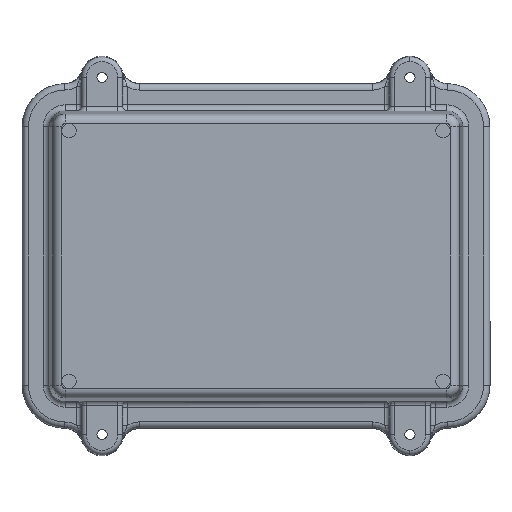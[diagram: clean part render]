
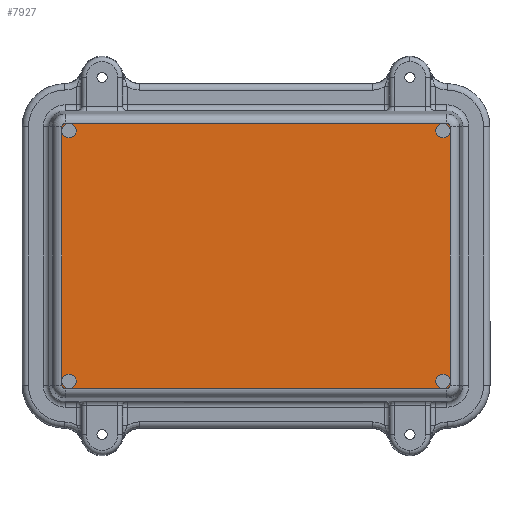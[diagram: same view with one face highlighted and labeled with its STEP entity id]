
A CAD part, front view. The second image highlights one B-rep face of the part: STEP entity #7927.
In plain terms, the highlighted planar face has unit normal (0, -1, 0).
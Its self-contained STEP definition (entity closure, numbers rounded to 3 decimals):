
#15 = FACE_OUTER_BOUND ( 'NONE', #20070, .T. ) ;
#27 = EDGE_CURVE ( 'NONE', #15214, #14828, #15602, .T. ) ;
#88 = CARTESIAN_POINT ( 'NONE',  ( 60.7, -39.8, -38.35 ) ) ;
#189 = AXIS2_PLACEMENT_3D ( 'NONE', #15067, #13405, #9733 ) ;
#399 = CIRCLE ( 'NONE', #21406, 2.35 ) ;
#540 = CARTESIAN_POINT ( 'NONE',  ( 62., -39.8, 43.063 ) ) ;
#605 = FACE_BOUND ( 'NONE', #1218, .T. ) ;
#646 = DIRECTION ( 'NONE',  ( 0., -1., 0. ) ) ;
#805 = CIRCLE ( 'NONE', #5787, 2.35 ) ;
#846 = CIRCLE ( 'NONE', #15861, 2.35 ) ;
#849 = VERTEX_POINT ( 'NONE', #19536 ) ;
#1120 = ORIENTED_EDGE ( 'NONE', *, *, #27, .T. ) ;
#1170 = FACE_BOUND ( 'NONE', #11552, .T. ) ;
#1218 = EDGE_LOOP ( 'NONE', ( #2453, #15654 ) ) ;
#1384 = VERTEX_POINT ( 'NONE', #22030 ) ;
#1394 = DIRECTION ( 'NONE',  ( 0., -1., 0. ) ) ;
#1497 = DIRECTION ( 'NONE',  ( 0., -1., 0. ) ) ;
#1668 = DIRECTION ( 'NONE',  ( 0., -1., 0. ) ) ;
#1745 = CIRCLE ( 'NONE', #189, 1.063 ) ;
#2144 = DIRECTION ( 'NONE',  ( 0., 0., -1. ) ) ;
#2301 = EDGE_CURVE ( 'NONE', #11062, #19643, #5932, .T. ) ;
#2390 = ORIENTED_EDGE ( 'NONE', *, *, #10307, .F. ) ;
#2453 = ORIENTED_EDGE ( 'NONE', *, *, #8015, .F. ) ;
#2763 = AXIS2_PLACEMENT_3D ( 'NONE', #12406, #1497, #14149 ) ;
#2904 = LINE ( 'NONE', #4687, #19321 ) ;
#2935 = FACE_BOUND ( 'NONE', #21653, .T. ) ;
#3071 = CARTESIAN_POINT ( 'NONE',  ( -60.7, -39.8, -40.7 ) ) ;
#3189 = DIRECTION ( 'NONE',  ( 0., -1., 0. ) ) ;
#3797 = CARTESIAN_POINT ( 'NONE',  ( -63.063, -39.8, -42. ) ) ;
#4373 = ORIENTED_EDGE ( 'NONE', *, *, #19032, .T. ) ;
#4687 = CARTESIAN_POINT ( 'NONE',  ( 62., -39.8, -43.063 ) ) ;
#5056 = VERTEX_POINT ( 'NONE', #19434 ) ;
#5364 = ORIENTED_EDGE ( 'NONE', *, *, #21557, .T. ) ;
#5611 = DIRECTION ( 'NONE',  ( 0., 0., 1. ) ) ;
#5614 = DIRECTION ( 'NONE',  ( 0., 0., 1. ) ) ;
#5787 = AXIS2_PLACEMENT_3D ( 'NONE', #5874, #14930, #2144 ) ;
#5788 = ORIENTED_EDGE ( 'NONE', *, *, #12343, .F. ) ;
#5819 = EDGE_CURVE ( 'NONE', #1384, #20682, #399, .T. ) ;
#5874 = CARTESIAN_POINT ( 'NONE',  ( -60.7, -39.8, 40.7 ) ) ;
#5932 = CIRCLE ( 'NONE', #16559, 1.063 ) ;
#6090 = ORIENTED_EDGE ( 'NONE', *, *, #12167, .T. ) ;
#6392 = CARTESIAN_POINT ( 'NONE',  ( -60.7, -39.8, -43.05 ) ) ;
#6623 = ORIENTED_EDGE ( 'NONE', *, *, #21035, .F. ) ;
#6791 = CARTESIAN_POINT ( 'NONE',  ( -62., -39.8, 43.063 ) ) ;
#6918 = LINE ( 'NONE', #14595, #11395 ) ;
#7163 = ORIENTED_EDGE ( 'NONE', *, *, #2301, .T. ) ;
#7230 = EDGE_CURVE ( 'NONE', #19643, #849, #6918, .T. ) ;
#7306 = CARTESIAN_POINT ( 'NONE',  ( 60.7, -39.8, -43.05 ) ) ;
#7553 = DIRECTION ( 'NONE',  ( 0., -1., 0. ) ) ;
#7842 = DIRECTION ( 'NONE',  ( 0., 0., -1. ) ) ;
#7927 = ADVANCED_FACE ( 'NONE', ( #605, #8527, #1170, #2935, #15 ), #14083, .T. ) ;
#8015 = EDGE_CURVE ( 'NONE', #13835, #5056, #16780, .T. ) ;
#8099 = EDGE_LOOP ( 'NONE', ( #5788, #2390 ) ) ;
#8130 = AXIS2_PLACEMENT_3D ( 'NONE', #21355, #1668, #12640 ) ;
#8199 = DIRECTION ( 'NONE',  ( 0., -1., 0. ) ) ;
#8527 = FACE_BOUND ( 'NONE', #8099, .T. ) ;
#8554 = AXIS2_PLACEMENT_3D ( 'NONE', #23011, #3189, #20915 ) ;
#8882 = ORIENTED_EDGE ( 'NONE', *, *, #11522, .F. ) ;
#9173 = DIRECTION ( 'NONE',  ( 0., 0., -1. ) ) ;
#9304 = CARTESIAN_POINT ( 'NONE',  ( -62., -39.8, 43.063 ) ) ;
#9579 = CIRCLE ( 'NONE', #19409, 2.35 ) ;
#9733 = DIRECTION ( 'NONE',  ( 0., 0., -1. ) ) ;
#9957 = DIRECTION ( 'NONE',  ( 0., 0., -1. ) ) ;
#10108 = VERTEX_POINT ( 'NONE', #88 ) ;
#10307 = EDGE_CURVE ( 'NONE', #10108, #12215, #846, .T. ) ;
#11062 = VERTEX_POINT ( 'NONE', #16705 ) ;
#11166 = DIRECTION ( 'NONE',  ( 0., 0., 1. ) ) ;
#11395 = VECTOR ( 'NONE', #5614, 1000. ) ;
#11522 = EDGE_CURVE ( 'NONE', #12912, #18577, #805, .T. ) ;
#11552 = EDGE_LOOP ( 'NONE', ( #6623, #21912 ) ) ;
#11605 = DIRECTION ( 'NONE',  ( 0., 0., -1. ) ) ;
#11686 = ORIENTED_EDGE ( 'NONE', *, *, #12423, .F. ) ;
#11841 = DIRECTION ( 'NONE',  ( 0., -1., 0. ) ) ;
#12075 = CIRCLE ( 'NONE', #17432, 2.35 ) ;
#12167 = EDGE_CURVE ( 'NONE', #849, #18342, #22012, .T. ) ;
#12215 = VERTEX_POINT ( 'NONE', #7306 ) ;
#12343 = EDGE_CURVE ( 'NONE', #12215, #10108, #21130, .T. ) ;
#12406 = CARTESIAN_POINT ( 'NONE',  ( 62., -39.8, 42. ) ) ;
#12423 = EDGE_CURVE ( 'NONE', #18577, #12912, #12075, .T. ) ;
#12640 = DIRECTION ( 'NONE',  ( 0., 0., -1. ) ) ;
#12647 = EDGE_CURVE ( 'NONE', #5056, #13835, #9579, .T. ) ;
#12912 = VERTEX_POINT ( 'NONE', #14659 ) ;
#13047 = CARTESIAN_POINT ( 'NONE',  ( 60.7, -39.8, 38.35 ) ) ;
#13275 = DIRECTION ( 'NONE',  ( 0., -1., 0. ) ) ;
#13405 = DIRECTION ( 'NONE',  ( 0., -1., 0. ) ) ;
#13787 = VECTOR ( 'NONE', #23102, 1000. ) ;
#13811 = DIRECTION ( 'NONE',  ( 0., 0., 1. ) ) ;
#13835 = VERTEX_POINT ( 'NONE', #6392 ) ;
#14083 = PLANE ( 'NONE',  #8130 ) ;
#14149 = DIRECTION ( 'NONE',  ( 0., 0., -1. ) ) ;
#14152 = CIRCLE ( 'NONE', #8554, 1.063 ) ;
#14179 = CARTESIAN_POINT ( 'NONE',  ( -63.063, -39.8, 42. ) ) ;
#14595 = CARTESIAN_POINT ( 'NONE',  ( 63.063, -39.8, 42. ) ) ;
#14659 = CARTESIAN_POINT ( 'NONE',  ( -60.7, -39.8, 43.05 ) ) ;
#14828 = VERTEX_POINT ( 'NONE', #21879 ) ;
#14930 = DIRECTION ( 'NONE',  ( 0., -1., 0. ) ) ;
#15067 = CARTESIAN_POINT ( 'NONE',  ( -62., -39.8, -42. ) ) ;
#15214 = VERTEX_POINT ( 'NONE', #14179 ) ;
#15335 = DIRECTION ( 'NONE',  ( 1., 0., 0. ) ) ;
#15602 = LINE ( 'NONE', #3797, #20135 ) ;
#15654 = ORIENTED_EDGE ( 'NONE', *, *, #12647, .F. ) ;
#15861 = AXIS2_PLACEMENT_3D ( 'NONE', #20757, #646, #9957 ) ;
#16209 = AXIS2_PLACEMENT_3D ( 'NONE', #18591, #13275, #7842 ) ;
#16496 = VERTEX_POINT ( 'NONE', #9304 ) ;
#16559 = AXIS2_PLACEMENT_3D ( 'NONE', #17058, #18670, #20556 ) ;
#16705 = CARTESIAN_POINT ( 'NONE',  ( 62., -39.8, -43.063 ) ) ;
#16780 = CIRCLE ( 'NONE', #19807, 2.35 ) ;
#17058 = CARTESIAN_POINT ( 'NONE',  ( 62., -39.8, -42. ) ) ;
#17065 = CARTESIAN_POINT ( 'NONE',  ( -60.7, -39.8, 40.7 ) ) ;
#17432 = AXIS2_PLACEMENT_3D ( 'NONE', #17065, #11841, #11605 ) ;
#17856 = CARTESIAN_POINT ( 'NONE',  ( -60.7, -39.8, 38.35 ) ) ;
#17929 = DIRECTION ( 'NONE',  ( 0., -1., 0. ) ) ;
#18342 = VERTEX_POINT ( 'NONE', #540 ) ;
#18347 = LINE ( 'NONE', #6791, #13787 ) ;
#18375 = CARTESIAN_POINT ( 'NONE',  ( 60.7, -39.8, 40.7 ) ) ;
#18402 = VERTEX_POINT ( 'NONE', #19145 ) ;
#18469 = EDGE_CURVE ( 'NONE', #18402, #11062, #2904, .T. ) ;
#18577 = VERTEX_POINT ( 'NONE', #17856 ) ;
#18591 = CARTESIAN_POINT ( 'NONE',  ( 60.7, -39.8, -40.7 ) ) ;
#18670 = DIRECTION ( 'NONE',  ( 0., -1., 0. ) ) ;
#19028 = CARTESIAN_POINT ( 'NONE',  ( -60.7, -39.8, -40.7 ) ) ;
#19032 = EDGE_CURVE ( 'NONE', #14828, #18402, #1745, .T. ) ;
#19103 = CARTESIAN_POINT ( 'NONE',  ( 63.063, -39.8, -42. ) ) ;
#19145 = CARTESIAN_POINT ( 'NONE',  ( -62., -39.8, -43.063 ) ) ;
#19215 = ORIENTED_EDGE ( 'NONE', *, *, #19661, .T. ) ;
#19321 = VECTOR ( 'NONE', #15335, 1000. ) ;
#19409 = AXIS2_PLACEMENT_3D ( 'NONE', #3071, #1394, #13811 ) ;
#19434 = CARTESIAN_POINT ( 'NONE',  ( -60.7, -39.8, -38.35 ) ) ;
#19476 = CIRCLE ( 'NONE', #22499, 2.35 ) ;
#19536 = CARTESIAN_POINT ( 'NONE',  ( 63.063, -39.8, 42. ) ) ;
#19643 = VERTEX_POINT ( 'NONE', #19103 ) ;
#19661 = EDGE_CURVE ( 'NONE', #16496, #15214, #14152, .T. ) ;
#19755 = ORIENTED_EDGE ( 'NONE', *, *, #7230, .T. ) ;
#19807 = AXIS2_PLACEMENT_3D ( 'NONE', #19028, #8199, #20839 ) ;
#19917 = CARTESIAN_POINT ( 'NONE',  ( 60.7, -39.8, 40.7 ) ) ;
#20070 = EDGE_LOOP ( 'NONE', ( #6090, #5364, #19215, #1120, #4373, #21173, #7163, #19755 ) ) ;
#20135 = VECTOR ( 'NONE', #9173, 1000. ) ;
#20556 = DIRECTION ( 'NONE',  ( 0., 0., -1. ) ) ;
#20682 = VERTEX_POINT ( 'NONE', #13047 ) ;
#20757 = CARTESIAN_POINT ( 'NONE',  ( 60.7, -39.8, -40.7 ) ) ;
#20839 = DIRECTION ( 'NONE',  ( 0., 0., 1. ) ) ;
#20915 = DIRECTION ( 'NONE',  ( 0., 0., -1. ) ) ;
#21035 = EDGE_CURVE ( 'NONE', #20682, #1384, #19476, .T. ) ;
#21130 = CIRCLE ( 'NONE', #16209, 2.35 ) ;
#21173 = ORIENTED_EDGE ( 'NONE', *, *, #18469, .T. ) ;
#21355 = CARTESIAN_POINT ( 'NONE',  ( -62., -39.8, 42. ) ) ;
#21406 = AXIS2_PLACEMENT_3D ( 'NONE', #18375, #7553, #11166 ) ;
#21557 = EDGE_CURVE ( 'NONE', #18342, #16496, #18347, .T. ) ;
#21653 = EDGE_LOOP ( 'NONE', ( #11686, #8882 ) ) ;
#21879 = CARTESIAN_POINT ( 'NONE',  ( -63.063, -39.8, -42. ) ) ;
#21912 = ORIENTED_EDGE ( 'NONE', *, *, #5819, .F. ) ;
#22012 = CIRCLE ( 'NONE', #2763, 1.063 ) ;
#22030 = CARTESIAN_POINT ( 'NONE',  ( 60.7, -39.8, 43.05 ) ) ;
#22499 = AXIS2_PLACEMENT_3D ( 'NONE', #19917, #17929, #5611 ) ;
#23011 = CARTESIAN_POINT ( 'NONE',  ( -62., -39.8, 42. ) ) ;
#23102 = DIRECTION ( 'NONE',  ( -1., 0., 0. ) ) ;
